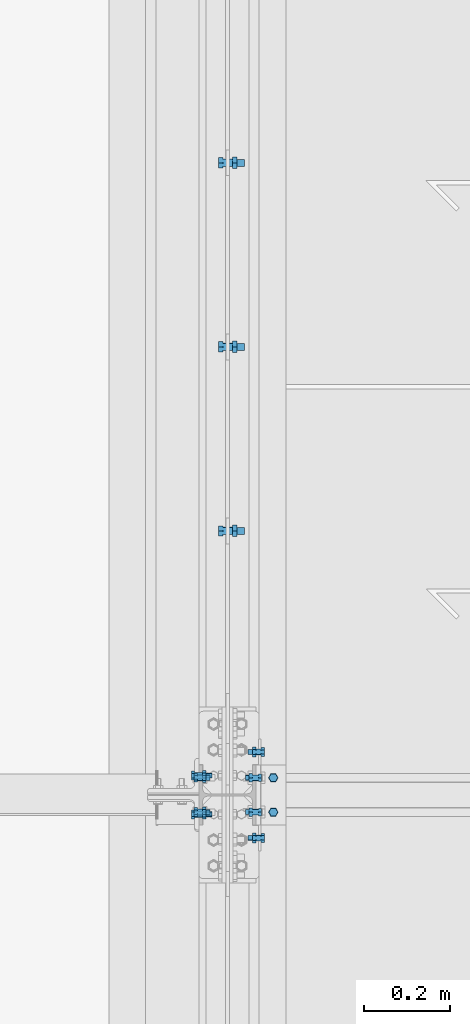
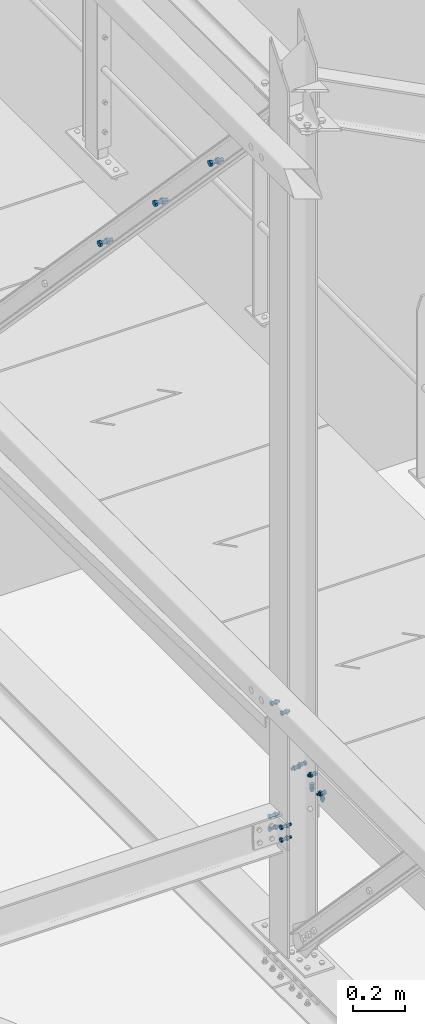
# One storey, part 264 of 362: 15 mechanical fasteners.
"""IFC2X3 building model written with IfcOpenShell, lengths in millimetres."""

from ifc_helpers import new_model, si_unit, frame, origin_with_axes, origin_2d_with_axis, place, context, subcontext, project, spatial, polyline, circle, outline, extrude, source, transform, mapped, material, type_object, element, save


model = new_model("IFC2X3")

# Units and contexts
model_context = context("Model", 3, precision=1e-05, world=origin_with_axes())
body_context = subcontext(model_context, "Body", "Model", "MODEL_VIEW")
ifc_project = project(units=[si_unit("LENGTHUNIT", "METRE", prefix="MILLI"), si_unit("AREAUNIT", "SQUARE_METRE"), si_unit("VOLUMEUNIT", "CUBIC_METRE"), si_unit("MASSUNIT", "GRAM", prefix="KILO"), si_unit("TIMEUNIT", "SECOND"), si_unit("PLANEANGLEUNIT", "RADIAN"), si_unit("SOLIDANGLEUNIT", "STERADIAN"), si_unit("THERMODYNAMICTEMPERATUREUNIT", "DEGREE_CELSIUS"), si_unit("LUMINOUSINTENSITYUNIT", "LUMEN")], contexts=[model_context])

# Site, building, storey
site_placement = place(None, origin_with_axes())
site = spatial("IfcSite", under=ifc_project, at=site_placement, Name="Undefined", CompositionType="ELEMENT")
building_placement = place(site_placement, origin_with_axes())
building = spatial("IfcBuilding", under=site, at=building_placement, Name="Undefined", CompositionType="ELEMENT")
storey_placement = place(building_placement, origin_with_axes())
storey = spatial("IfcBuildingStorey", under=building, at=storey_placement, Name="Undefined", CompositionType="ELEMENT", Elevation=0.0)

# Mechanical fasteners
ifc_material = material(Name="8.8-SB-ZINGUE")
mechanical_fastener_type = type_object("IfcMechanicalFastenerType", Name="Bolt assembly")
shared_shape_1 = source(origin_with_axes(), body_context, "Body", "SweptSolid", [
    extrude(circle(Radius=7.0, at=origin_2d_with_axis()), frame((0.0, -0.100011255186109, 0.0), z_axis=(0.0, 1.0, 0.0), x_axis=(1.0, 0.0, 0.0)), (0.0, 0.0, 1.0), 8.6),
    extrude(circle(Radius=7.0, at=origin_2d_with_axis()), frame((0.0, -4.90000000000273, 0.0), z_axis=(0.0, 1.0, 0.0), x_axis=(1.0, 0.0, 0.0)), (0.0, 0.0, 1.0), 5.0),
    extrude(outline(polyline([(10.39230484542, 0.0), (5.19615242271, 9.00000000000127), (-5.19615242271, 9.00000000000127), (-10.39230484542, 0.0), (-5.19615242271, -9.00000000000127), (5.19615242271, -9.00000000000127), (10.39230484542, 0.0)])), frame((0.0, -12.9200004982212, 0.0), z_axis=(0.0, 1.0, 0.0), x_axis=(1.0, 0.0, 0.0)), (0.0, 0.0, 1.0), 7.92),
    extrude(circle(Radius=6.0, at=origin_2d_with_axis()), frame((0.0, -5.00000000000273, 0.0), z_axis=(0.0, 1.0, 0.0), x_axis=(1.0, 0.0, 0.0)), (0.0, 0.0, 1.0), 30.0),
    extrude(outline(polyline([(11.5008173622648, 0.0), (5.7504086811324, 9.96000000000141), (-5.7504086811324, 9.96000000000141), (-11.5008173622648, 0.0), (-5.7504086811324, -9.96000000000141), (5.7504086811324, -9.96000000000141), (11.5008173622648, 0.0)])), frame((0.0, 8.49999994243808, 0.0), z_axis=(0.0, 1.0, 0.0), x_axis=(1.0, 0.0, 0.0)), (0.0, 0.0, 1.0), 7.92),
])
for number, where, z_axis, x_axis, name in (
    (1, (23536.5000012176, 3760.00000098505, 8070.00000000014), (0.0, 1.0, 0.0), (0.0, 0.0, -1.0), "Bolt assembly"),
    (2, (23536.5000012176, 3840.00000098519, 8070.00000000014), (0.0, 1.0, 0.0), (0.0, 0.0, -1.0), "Bolt assembly"),
):
    element("IfcMechanicalFastener", number, at=place(storey_placement, frame(where, z_axis=z_axis, x_axis=x_axis)), inside=storey, type_object=mechanical_fastener_type, material=ifc_material, Name=name, NominalDiameter=12.0, NominalLength=30.0, context=body_context, shape_type="MappedRepresentation", body=[
        mapped(shared_shape_1, transform((0.0, 0.0, 0.0))),
    ])
shared_shape_2 = source(origin_with_axes(), body_context, "Body", "SweptSolid", [
    extrude(circle(Radius=9.0, at=origin_2d_with_axis()), frame((0.0, -10.9000000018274, 0.0), z_axis=(0.0, 1.0, 0.0), x_axis=(1.0, 0.0, 0.0)), (0.0, 0.0, 1.0), 6.0),
    extrude(circle(Radius=9.0, at=origin_2d_with_axis()), frame((0.0, 4.9000000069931, 0.0), z_axis=(0.0, 1.0, 0.0), x_axis=(1.0, 0.0, 0.0)), (0.0, 0.0, 1.0), 6.1),
    extrude(circle(Radius=9.0, at=origin_2d_with_axis()), frame((0.0, -3.99999923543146, 0.0), z_axis=(0.0, 1.0, 0.0), x_axis=(1.0, 0.0, 0.0)), (0.0, 0.0, 1.0), 8.0),
    extrude(outline(polyline([(13.85640646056, 0.0), (6.92820323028, 12.0000000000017), (-6.92820323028, 12.0000000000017), (-13.85640646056, 0.0), (-6.92820323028, -12.0000000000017), (6.92820323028, -12.0000000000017), (13.85640646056, 0.0)])), frame((0.0, -21.5600000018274, 0.0), z_axis=(0.0, 1.0, 0.0), x_axis=(1.0, 0.0, 0.0)), (0.0, 0.0, 1.0), 10.56),
    extrude(circle(Radius=8.0, at=origin_2d_with_axis()), frame((0.0, -11.0000000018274, 0.0), z_axis=(0.0, 1.0, 0.0), x_axis=(1.0, 0.0, 0.0)), (0.0, 0.0, 1.0), 50.0),
    extrude(outline(polyline([(15.3344231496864, 0.0), (7.6672115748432, 13.2800000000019), (-7.6672115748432, 13.2800000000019), (-15.3344231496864, 0.0), (-7.6672115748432, -13.2800000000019), (7.6672115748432, -13.2800000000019), (15.3344231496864, 0.0)])), frame((0.0, 11.0000000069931, 0.0), z_axis=(0.0, 1.0, 0.0), x_axis=(1.0, 0.0, 0.0)), (0.0, 0.0, 1.0), 10.56),
])
for number, where, z_axis, x_axis, name in (
    (3, (23470.0, 4414.72861245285, 10591.1820462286), (0.0, 1.0, 0.0), (0.0, 0.0, 1.0), "Bolt assembly"),
    (4, (23470.0, 4843.15240955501, 10141.7880316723), (0.0, 1.0, 0.0), (0.0, 0.0, 1.0), "Bolt assembly"),
    (5, (23470.0, 5271.57620665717, 9692.39401711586), (0.0, 1.0, 0.0), (0.0, 0.0, 1.0), "Bolt assembly"),
):
    element("IfcMechanicalFastener", number, at=place(storey_placement, frame(where, z_axis=z_axis, x_axis=x_axis)), inside=storey, type_object=mechanical_fastener_type, material=ifc_material, Name=name, NominalDiameter=16.0, NominalLength=50.0, context=body_context, shape_type="MappedRepresentation", body=[
        mapped(shared_shape_2, transform((0.0, 0.0, 0.0))),
    ])
shared_shape_3 = source(origin_with_axes(), body_context, "Body", "SweptSolid", [
    extrude(circle(Radius=7.0, at=origin_2d_with_axis()), frame((0.0, -4.90000000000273, 0.0), z_axis=(0.0, 1.0, 0.0), x_axis=(1.0, 0.0, 0.0)), (0.0, 0.0, 1.0), 5.0),
    extrude(circle(Radius=7.0, at=origin_2d_with_axis()), frame((0.0, -0.100011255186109, 0.0), z_axis=(0.0, 1.0, 0.0), x_axis=(1.0, 0.0, 0.0)), (0.0, 0.0, 1.0), 7.1),
    extrude(outline(polyline([(10.39230484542, 0.0), (5.19615242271, 9.00000000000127), (-5.19615242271, 9.00000000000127), (-10.39230484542, 0.0), (-5.19615242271, -9.00000000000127), (5.19615242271, -9.00000000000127), (10.39230484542, 0.0)])), frame((0.0, -12.9200004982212, 0.0), z_axis=(0.0, 1.0, 0.0), x_axis=(1.0, 0.0, 0.0)), (0.0, 0.0, 1.0), 7.92),
    extrude(circle(Radius=6.0, at=origin_2d_with_axis()), frame((0.0, -5.00000000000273, 0.0), z_axis=(0.0, 1.0, 0.0), x_axis=(1.0, 0.0, 0.0)), (0.0, 0.0, 1.0), 30.0),
    extrude(outline(polyline([(11.5008173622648, 0.0), (5.7504086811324, 9.96000000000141), (-5.7504086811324, 9.96000000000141), (-11.5008173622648, 0.0), (-5.7504086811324, -9.96000000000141), (5.7504086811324, -9.96000000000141), (11.5008173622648, 0.0)])), frame((0.0, 7.0, 0.0), z_axis=(0.0, 1.0, 0.0), x_axis=(1.0, 0.0, 0.0)), (0.0, 0.0, 1.0), 7.92),
])
for number, where, z_axis, x_axis, name in (
    (6, (23576.5000012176, 3839.99999998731, 7950.00000000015), (0.0, -1.0, 0.0), (-1.0, 0.0, 0.0), "Bolt assembly"),
    (7, (23576.5000012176, 3759.99999998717, 7950.00000000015), (0.0, -1.0, 0.0), (-1.0, 0.0, 0.0), "Bolt assembly"),
):
    element("IfcMechanicalFastener", number, at=place(storey_placement, frame(where, z_axis=z_axis, x_axis=x_axis)), inside=storey, type_object=mechanical_fastener_type, material=ifc_material, Name=name, NominalDiameter=12.0, NominalLength=30.0, context=body_context, shape_type="MappedRepresentation", body=[
        mapped(shared_shape_3, transform((0.0, 0.0, 0.0))),
    ])
shared_shape_4 = source(origin_with_axes(), body_context, "Body", "SweptSolid", [
    extrude(circle(Radius=7.0, at=origin_2d_with_axis()), frame((0.0, -0.108170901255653, 0.0), z_axis=(0.0, 1.0, 0.0), x_axis=(1.0, 0.0, 0.0)), (0.0, 0.0, 1.0), 5.1),
    extrude(circle(Radius=7.0, at=origin_2d_with_axis()), frame((0.0, -6.4, 0.0), z_axis=(0.0, 1.0, 0.0), x_axis=(1.0, 0.0, 0.0)), (0.0, 0.0, 1.0), 6.0),
    extrude(outline(polyline([(10.39230484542, 0.0), (5.19615242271, 9.00000000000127), (-5.19615242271, 9.00000000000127), (-10.39230484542, 0.0), (-5.19615242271, -9.00000000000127), (5.19615242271, -9.00000000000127), (10.39230484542, 0.0)])), frame((0.0, -14.42, 0.0), z_axis=(0.0, 1.0, 0.0), x_axis=(1.0, 0.0, 0.0)), (0.0, 0.0, 1.0), 7.92),
    extrude(circle(Radius=6.0, at=origin_2d_with_axis()), frame((0.0, -6.5, 0.0), z_axis=(0.0, 1.0, 0.0), x_axis=(1.0, 0.0, 0.0)), (0.0, 0.0, 1.0), 30.0),
    extrude(outline(polyline([(11.5008173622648, 0.0), (5.7504086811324, 9.96000000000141), (-5.7504086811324, 9.96000000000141), (-11.5008173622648, 0.0), (-5.7504086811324, -9.96000000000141), (5.7504086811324, -9.96000000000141), (11.5008173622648, 0.0)])), frame((0.0, 4.99182909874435, 0.0), z_axis=(0.0, 1.0, 0.0), x_axis=(1.0, 0.0, 0.0)), (0.0, 0.0, 1.0), 7.92),
])
for number, where, z_axis, x_axis, name in (
    (8, (23541.4918295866, 3899.999999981, 8015.00000000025), (0.0, 0.0, -1.0), (0.0, -1.0, 0.0), "Bolt assembly"),
    (9, (23541.4918295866, 3699.99999998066, 8015.00000000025), (0.0, 0.0, 1.0), (0.0, 1.0, 0.0), "Bolt assembly"),
):
    element("IfcMechanicalFastener", number, at=place(storey_placement, frame(where, z_axis=z_axis, x_axis=x_axis)), inside=storey, type_object=mechanical_fastener_type, material=ifc_material, Name=name, NominalDiameter=12.0, NominalLength=30.0, context=body_context, shape_type="MappedRepresentation", body=[
        mapped(shared_shape_4, transform((0.0, 0.0, 0.0))),
    ])
shared_shape_5 = source(origin_with_axes(), body_context, "Body", "SweptSolid", [
    extrude(circle(Radius=7.0, at=origin_2d_with_axis()), frame((0.0, -0.10007666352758, 0.0), z_axis=(0.0, 1.0, 0.0), x_axis=(1.0, 0.0, 0.0)), (0.0, 0.0, 1.0), 8.6),
    extrude(circle(Radius=7.0, at=origin_2d_with_axis()), frame((0.0, -3.89999843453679, 0.0), z_axis=(0.0, 1.0, 0.0), x_axis=(1.0, 0.0, 0.0)), (0.0, 0.0, 1.0), 4.0),
    extrude(outline(polyline([(10.39230484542, 0.0), (5.19615242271, 9.00000000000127), (-5.19615242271, 9.00000000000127), (-10.39230484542, 0.0), (-5.19615242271, -9.00000000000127), (5.19615242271, -9.00000000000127), (10.39230484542, 0.0)])), frame((0.0, -11.9199984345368, 0.0), z_axis=(0.0, 1.0, 0.0), x_axis=(1.0, 0.0, 0.0)), (0.0, 0.0, 1.0), 7.92),
    extrude(circle(Radius=6.0, at=origin_2d_with_axis()), frame((0.0, -3.99999923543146, 0.0), z_axis=(0.0, 1.0, 0.0), x_axis=(1.0, 0.0, 0.0)), (0.0, 0.0, 1.0), 30.0),
    extrude(outline(polyline([(11.5008173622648, 0.0), (5.7504086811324, 9.96000000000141), (-5.7504086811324, 9.96000000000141), (-11.5008173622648, 0.0), (-5.7504086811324, -9.96000000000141), (5.7504086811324, -9.96000000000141), (11.5008173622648, 0.0)])), frame((0.0, 8.49988372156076, 0.0), z_axis=(0.0, 1.0, 0.0), x_axis=(1.0, 0.0, 0.0)), (0.0, 0.0, 1.0), 7.92),
])
for number, where, z_axis, x_axis, name in (
    (10, (23403.5001162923, 3840.0, 8404.59626929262), (0.0, 0.0, -1.0), (0.0, 1.0, 0.0), "Bolt assembly"),
    (11, (23403.5001162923, 3760.0, 8407.11059506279), (0.0, 0.0, 1.0), (0.0, -1.0, 0.0), "Bolt assembly"),
):
    element("IfcMechanicalFastener", number, at=place(storey_placement, frame(where, z_axis=z_axis, x_axis=x_axis)), inside=storey, type_object=mechanical_fastener_type, material=ifc_material, Name=name, NominalDiameter=12.0, NominalLength=30.0, context=body_context, shape_type="MappedRepresentation", body=[
        mapped(shared_shape_5, transform((0.0, 0.0, 0.0))),
    ])
shared_shape_6 = source(origin_with_axes(), body_context, "Body", "SweptSolid", [
    extrude(circle(Radius=7.0, at=origin_2d_with_axis()), frame((0.0, -0.100011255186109, 0.0), z_axis=(0.0, 1.0, 0.0), x_axis=(1.0, 0.0, 0.0)), (0.0, 0.0, 1.0), 8.6),
    extrude(circle(Radius=7.0, at=origin_2d_with_axis()), frame((0.0, -9.9, 0.0), z_axis=(0.0, 1.0, 0.0), x_axis=(1.0, 0.0, 0.0)), (0.0, 0.0, 1.0), 10.0),
    extrude(outline(polyline([(10.39230484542, 0.0), (5.19615242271, 9.00000000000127), (-5.19615242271, 9.00000000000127), (-10.39230484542, 0.0), (-5.19615242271, -9.00000000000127), (5.19615242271, -9.00000000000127), (10.39230484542, 0.0)])), frame((0.0, -17.92, 0.0), z_axis=(0.0, 1.0, 0.0), x_axis=(1.0, 0.0, 0.0)), (0.0, 0.0, 1.0), 7.92),
    extrude(circle(Radius=6.0, at=origin_2d_with_axis()), frame((0.0, -10.0000010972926, 0.0), z_axis=(0.0, 1.0, 0.0), x_axis=(1.0, 0.0, 0.0)), (0.0, 0.0, 1.0), 40.0),
    extrude(outline(polyline([(11.5008173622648, 0.0), (5.7504086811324, 9.96000000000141), (-5.7504086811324, 9.96000000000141), (-11.5008173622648, 0.0), (-5.7504086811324, -9.96000000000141), (5.7504086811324, -9.96000000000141), (11.5008173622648, 0.0)])), frame((0.0, 8.49999994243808, 0.0), z_axis=(0.0, 1.0, 0.0), x_axis=(1.0, 0.0, 0.0)), (0.0, 0.0, 1.0), 7.92),
])
for number, where, z_axis, x_axis, name in (
    (12, (23403.5000013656, 3845.00005423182, 7869.13635399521), (0.0, 0.0, -1.0), (0.0, 1.0, 0.0), "Bolt assembly"),
    (13, (23403.5000013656, 3845.00005423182, 7809.10673213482), (0.0, 0.0, -1.0), (0.0, 1.0, 0.0), "Bolt assembly"),
    (14, (23403.5000013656, 3755.0000542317, 7811.93513744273), (0.0, 0.0, 1.0), (0.0, -1.0, 0.0), "Bolt assembly"),
    (15, (23403.5000013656, 3755.00005423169, 7871.96475930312), (0.0, 0.0, 1.0), (0.0, -1.0, 0.0), "Bolt assembly"),
):
    element("IfcMechanicalFastener", number, at=place(storey_placement, frame(where, z_axis=z_axis, x_axis=x_axis)), inside=storey, type_object=mechanical_fastener_type, material=ifc_material, Name=name, NominalDiameter=12.0, NominalLength=40.0, context=body_context, shape_type="MappedRepresentation", body=[
        mapped(shared_shape_6, transform((0.0, 0.0, 0.0))),
    ])

save(model, "model.ifc")
